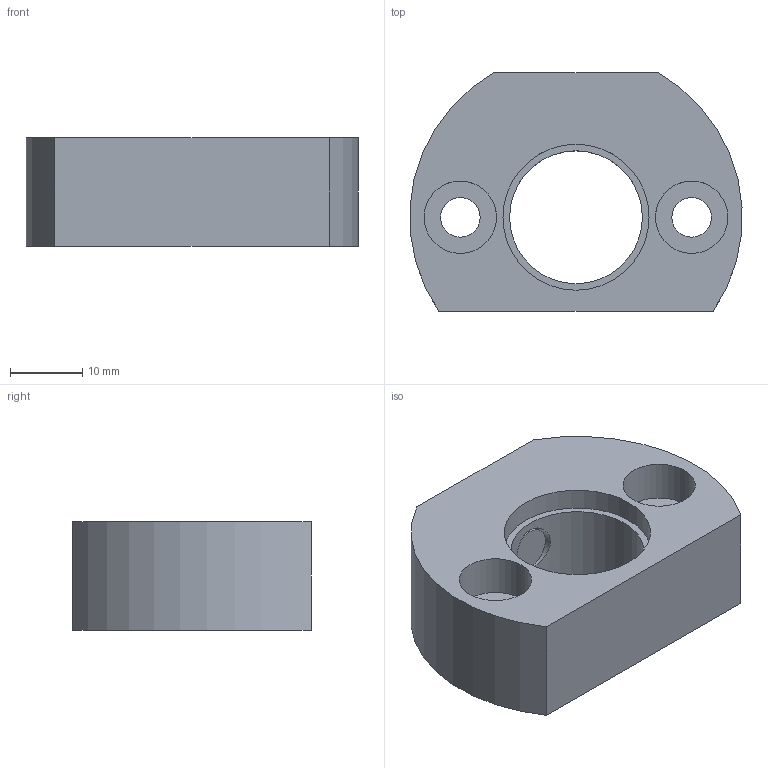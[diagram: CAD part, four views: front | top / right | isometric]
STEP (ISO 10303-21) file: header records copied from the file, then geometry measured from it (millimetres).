
FILE_DESCRIPTION( ( 'STEP AP203' ), '1' );
FILE_NAME( 'C:/Temp/Ganter_Step_05_03_2020/data/3_1/gn612n_1/gn612n_1_a/Stainless steel-Mounting block GN 612.1-M20x1,5-A-NI.stp', '2020-03-12T08:37:13', ( 'License CC BY-ND 4.0' ), ( 'CADENAS' ), ' ', 'PARTsolutions', ' ' );
FILE_SCHEMA( ( 'CONFIG_CONTROL_DESIGN' ) );
Length unit declared in the file: millimetre
Products named in the file (1): _Stainless steel-Mounting block GN 612.1-M20x1,5-A-NI
Bounding box: 45.91 x 33 x 15 mm (x, y, z)
Volume: 14636.5 mm3; surface area: 5802.9 mm2
Topology: 1 solids, 1 shells, 31 faces, 64 edges, 42 vertices
Faces by surface type: plane 17, cylinder 11, cone 3
Full cylindrical faces by diameter (mm): 5.5 x2, 6 x1, 6.647 x2, 10 x2, 18.376 x1, 20.2 x1
Entity records: 874 total; most frequent: CARTESIAN_POINT 187, DIRECTION 138, ORIENTED_EDGE 102, AXIS2_PLACEMENT_3D 56, EDGE_LOOP 56, EDGE_CURVE 51, VERTEX_POINT 41, FACE_OUTER_BOUND 40
